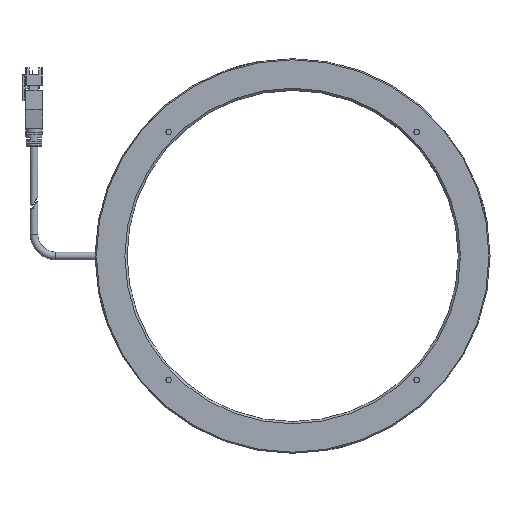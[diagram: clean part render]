
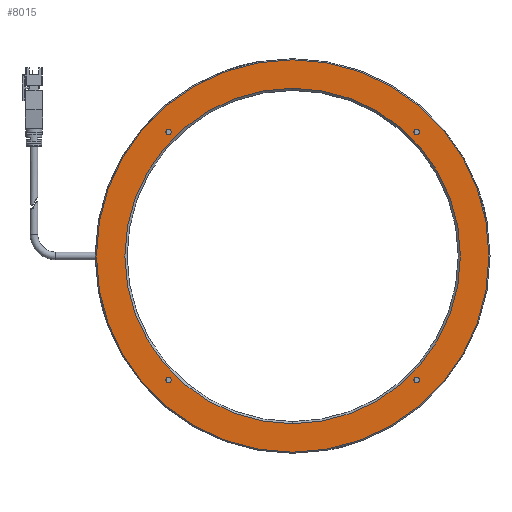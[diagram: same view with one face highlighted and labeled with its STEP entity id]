
A CAD part, front view. The second image highlights one B-rep face of the part: STEP entity #8015.
In plain terms, the highlighted planar face has unit normal (0, -1, 0).
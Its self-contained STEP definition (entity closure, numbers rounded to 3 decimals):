
#98 = ORIENTED_EDGE ( 'NONE', *, *, #7468, .F. ) ;
#108 = AXIS2_PLACEMENT_3D ( 'NONE', #9340, #4189, #2618 ) ;
#193 = DIRECTION ( 'NONE',  ( 0., -1., 0. ) ) ;
#211 = CARTESIAN_POINT ( 'NONE',  ( -56.569, 0., -56.569 ) ) ;
#230 = DIRECTION ( 'NONE',  ( 0., -1., 0. ) ) ;
#351 = FACE_BOUND ( 'NONE', #6762, .T. ) ;
#472 = DIRECTION ( 'NONE',  ( 0., 0., -1. ) ) ;
#625 = EDGE_CURVE ( 'NONE', #10264, #5719, #9466, .T. ) ;
#875 = EDGE_LOOP ( 'NONE', ( #7328, #6413 ) ) ;
#938 = EDGE_CURVE ( 'NONE', #8002, #10620, #8782, .T. ) ;
#1151 = AXIS2_PLACEMENT_3D ( 'NONE', #6295, #9728, #5501 ) ;
#1447 = EDGE_CURVE ( 'NONE', #5719, #10264, #9973, .T. ) ;
#1530 = FACE_BOUND ( 'NONE', #6649, .T. ) ;
#1572 = CIRCLE ( 'NONE', #1931, 1.25 ) ;
#1675 = CIRCLE ( 'NONE', #10083, 1.25 ) ;
#1864 = DIRECTION ( 'NONE',  ( 0., -1., 0. ) ) ;
#1910 = VERTEX_POINT ( 'NONE', #6918 ) ;
#1931 = AXIS2_PLACEMENT_3D ( 'NONE', #211, #1864, #2728 ) ;
#1940 = DIRECTION ( 'NONE',  ( 0., -1., 0. ) ) ;
#2053 = ORIENTED_EDGE ( 'NONE', *, *, #7420, .F. ) ;
#2090 = CIRCLE ( 'NONE', #7993, 1.25 ) ;
#2092 = EDGE_CURVE ( 'NONE', #10620, #8002, #1572, .T. ) ;
#2106 = CIRCLE ( 'NONE', #3813, 1.25 ) ;
#2136 = CARTESIAN_POINT ( 'NONE',  ( 90., 0., 0. ) ) ;
#2266 = DIRECTION ( 'NONE',  ( 0., 0., -1. ) ) ;
#2476 = FACE_OUTER_BOUND ( 'NONE', #875, .T. ) ;
#2618 = DIRECTION ( 'NONE',  ( 0., 0., -1. ) ) ;
#2650 = EDGE_CURVE ( 'NONE', #5755, #7174, #4107, .T. ) ;
#2728 = DIRECTION ( 'NONE',  ( 0., 0., -1. ) ) ;
#2773 = CIRCLE ( 'NONE', #108, 89.5 ) ;
#2898 = DIRECTION ( 'NONE',  ( 0., 0., -1. ) ) ;
#3177 = CARTESIAN_POINT ( 'NONE',  ( 0., 0., 76.5 ) ) ;
#3318 = AXIS2_PLACEMENT_3D ( 'NONE', #4624, #6362, #4722 ) ;
#3530 = ORIENTED_EDGE ( 'NONE', *, *, #938, .F. ) ;
#3553 = CARTESIAN_POINT ( 'NONE',  ( -56.569, 0., 56.569 ) ) ;
#3683 = DIRECTION ( 'NONE',  ( 0., -1., 0. ) ) ;
#3792 = VERTEX_POINT ( 'NONE', #8828 ) ;
#3813 = AXIS2_PLACEMENT_3D ( 'NONE', #10431, #3683, #5350 ) ;
#3819 = ORIENTED_EDGE ( 'NONE', *, *, #2650, .F. ) ;
#4107 = CIRCLE ( 'NONE', #8757, 1.25 ) ;
#4189 = DIRECTION ( 'NONE',  ( 0., -1., 0. ) ) ;
#4454 = CARTESIAN_POINT ( 'NONE',  ( 0., 0., 0. ) ) ;
#4611 = FACE_BOUND ( 'NONE', #6023, .T. ) ;
#4624 = CARTESIAN_POINT ( 'NONE',  ( 0., 0., 0. ) ) ;
#4671 = CARTESIAN_POINT ( 'NONE',  ( 56.569, 0., 56.569 ) ) ;
#4722 = DIRECTION ( 'NONE',  ( 0., 0., -1. ) ) ;
#4809 = DIRECTION ( 'NONE',  ( 0., 1., 0. ) ) ;
#4818 = DIRECTION ( 'NONE',  ( 0., -1., 0. ) ) ;
#5027 = CARTESIAN_POINT ( 'NONE',  ( -56.569, 0., -57.819 ) ) ;
#5125 = EDGE_CURVE ( 'NONE', #9838, #7905, #2106, .T. ) ;
#5137 = EDGE_LOOP ( 'NONE', ( #6533, #3530 ) ) ;
#5153 = VERTEX_POINT ( 'NONE', #5535 ) ;
#5183 = AXIS2_PLACEMENT_3D ( 'NONE', #2136, #4818, #472 ) ;
#5350 = DIRECTION ( 'NONE',  ( 0., 0., -1. ) ) ;
#5362 = DIRECTION ( 'NONE',  ( 0., 0., -1. ) ) ;
#5380 = CIRCLE ( 'NONE', #9672, 89.5 ) ;
#5501 = DIRECTION ( 'NONE',  ( 0., 0., -1. ) ) ;
#5535 = CARTESIAN_POINT ( 'NONE',  ( -56.569, 0., 55.319 ) ) ;
#5581 = DIRECTION ( 'NONE',  ( 0., -1., 0. ) ) ;
#5589 = CARTESIAN_POINT ( 'NONE',  ( -56.569, 0., -55.319 ) ) ;
#5595 = CARTESIAN_POINT ( 'NONE',  ( 0., 0., -76.5 ) ) ;
#5719 = VERTEX_POINT ( 'NONE', #3177 ) ;
#5755 = VERTEX_POINT ( 'NONE', #10152 ) ;
#6023 = EDGE_LOOP ( 'NONE', ( #3819, #2053 ) ) ;
#6032 = VERTEX_POINT ( 'NONE', #9869 ) ;
#6295 = CARTESIAN_POINT ( 'NONE',  ( -56.569, 0., 56.569 ) ) ;
#6337 = EDGE_CURVE ( 'NONE', #3792, #1910, #2773, .T. ) ;
#6362 = DIRECTION ( 'NONE',  ( 0., 1., 0. ) ) ;
#6413 = ORIENTED_EDGE ( 'NONE', *, *, #9018, .T. ) ;
#6533 = ORIENTED_EDGE ( 'NONE', *, *, #2092, .F. ) ;
#6649 = EDGE_LOOP ( 'NONE', ( #10869, #9194 ) ) ;
#6762 = EDGE_LOOP ( 'NONE', ( #98, #7421 ) ) ;
#6864 = DIRECTION ( 'NONE',  ( 0., 0., -1. ) ) ;
#6906 = EDGE_CURVE ( 'NONE', #6032, #5153, #2090, .T. ) ;
#6918 = CARTESIAN_POINT ( 'NONE',  ( 0., 0., -89.5 ) ) ;
#6989 = DIRECTION ( 'NONE',  ( 0., 0., -1. ) ) ;
#7093 = FACE_BOUND ( 'NONE', #8533, .T. ) ;
#7174 = VERTEX_POINT ( 'NONE', #8265 ) ;
#7230 = DIRECTION ( 'NONE',  ( 0., 0., -1. ) ) ;
#7276 = PLANE ( 'NONE',  #5183 ) ;
#7328 = ORIENTED_EDGE ( 'NONE', *, *, #6337, .T. ) ;
#7420 = EDGE_CURVE ( 'NONE', #7174, #5755, #9926, .T. ) ;
#7421 = ORIENTED_EDGE ( 'NONE', *, *, #5125, .F. ) ;
#7468 = EDGE_CURVE ( 'NONE', #7905, #9838, #1675, .T. ) ;
#7892 = CARTESIAN_POINT ( 'NONE',  ( 56.569, 0., 56.569 ) ) ;
#7905 = VERTEX_POINT ( 'NONE', #8779 ) ;
#7957 = CARTESIAN_POINT ( 'NONE',  ( 56.569, 0., -56.569 ) ) ;
#7993 = AXIS2_PLACEMENT_3D ( 'NONE', #3553, #1940, #5362 ) ;
#8002 = VERTEX_POINT ( 'NONE', #5589 ) ;
#8015 = ADVANCED_FACE ( 'NONE', ( #9245, #7093, #4611, #351, #1530, #2476 ), #7276, .T. ) ;
#8024 = DIRECTION ( 'NONE',  ( 0., 0., -1. ) ) ;
#8154 = ORIENTED_EDGE ( 'NONE', *, *, #6906, .F. ) ;
#8257 = ORIENTED_EDGE ( 'NONE', *, *, #10866, .F. ) ;
#8265 = CARTESIAN_POINT ( 'NONE',  ( 56.569, 0., 57.819 ) ) ;
#8533 = EDGE_LOOP ( 'NONE', ( #8257, #8154 ) ) ;
#8703 = DIRECTION ( 'NONE',  ( 0., -1., 0. ) ) ;
#8757 = AXIS2_PLACEMENT_3D ( 'NONE', #4671, #9790, #8024 ) ;
#8779 = CARTESIAN_POINT ( 'NONE',  ( 56.569, 0., -57.819 ) ) ;
#8782 = CIRCLE ( 'NONE', #11036, 1.25 ) ;
#8828 = CARTESIAN_POINT ( 'NONE',  ( 0., 0., 89.5 ) ) ;
#9018 = EDGE_CURVE ( 'NONE', #1910, #3792, #5380, .T. ) ;
#9099 = CARTESIAN_POINT ( 'NONE',  ( 0., 0., 0. ) ) ;
#9194 = ORIENTED_EDGE ( 'NONE', *, *, #1447, .T. ) ;
#9245 = FACE_BOUND ( 'NONE', #5137, .T. ) ;
#9340 = CARTESIAN_POINT ( 'NONE',  ( 0., 0., 0. ) ) ;
#9466 = CIRCLE ( 'NONE', #3318, 76.5 ) ;
#9672 = AXIS2_PLACEMENT_3D ( 'NONE', #4454, #8703, #6864 ) ;
#9728 = DIRECTION ( 'NONE',  ( 0., -1., 0. ) ) ;
#9790 = DIRECTION ( 'NONE',  ( 0., -1., 0. ) ) ;
#9838 = VERTEX_POINT ( 'NONE', #10850 ) ;
#9869 = CARTESIAN_POINT ( 'NONE',  ( -56.569, 0., 57.819 ) ) ;
#9926 = CIRCLE ( 'NONE', #10443, 1.25 ) ;
#9973 = CIRCLE ( 'NONE', #10096, 76.5 ) ;
#10083 = AXIS2_PLACEMENT_3D ( 'NONE', #7957, #193, #2898 ) ;
#10096 = AXIS2_PLACEMENT_3D ( 'NONE', #9099, #4809, #2266 ) ;
#10152 = CARTESIAN_POINT ( 'NONE',  ( 56.569, 0., 55.319 ) ) ;
#10264 = VERTEX_POINT ( 'NONE', #5595 ) ;
#10384 = CIRCLE ( 'NONE', #1151, 1.25 ) ;
#10431 = CARTESIAN_POINT ( 'NONE',  ( 56.569, 0., -56.569 ) ) ;
#10443 = AXIS2_PLACEMENT_3D ( 'NONE', #7892, #230, #6989 ) ;
#10620 = VERTEX_POINT ( 'NONE', #5027 ) ;
#10740 = CARTESIAN_POINT ( 'NONE',  ( -56.569, 0., -56.569 ) ) ;
#10850 = CARTESIAN_POINT ( 'NONE',  ( 56.569, 0., -55.319 ) ) ;
#10866 = EDGE_CURVE ( 'NONE', #5153, #6032, #10384, .T. ) ;
#10869 = ORIENTED_EDGE ( 'NONE', *, *, #625, .T. ) ;
#11036 = AXIS2_PLACEMENT_3D ( 'NONE', #10740, #5581, #7230 ) ;
